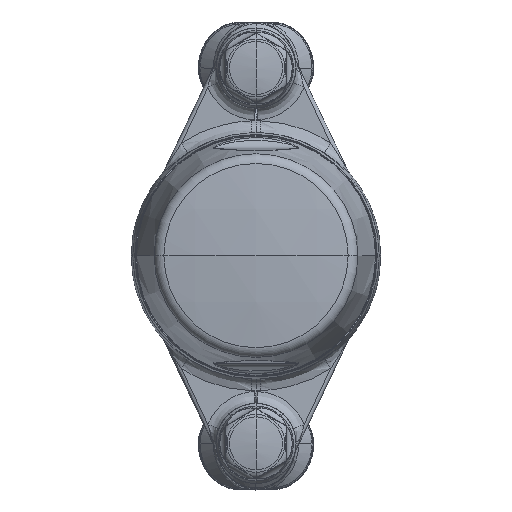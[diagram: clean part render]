
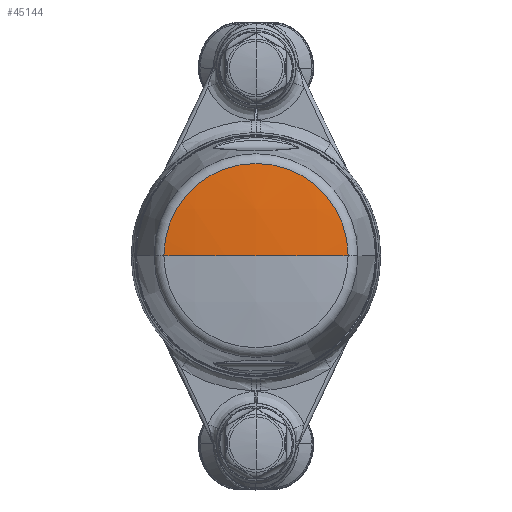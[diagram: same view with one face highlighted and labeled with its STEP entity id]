
A CAD part, top view. The second image highlights one B-rep face of the part: STEP entity #45144.
In plain terms, the highlighted spherical face has radius 200 mm.
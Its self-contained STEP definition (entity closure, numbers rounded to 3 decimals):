
#1450 = DIRECTION ( 'NONE',  ( 0., -1., 0. ) ) ;
#1950 = FACE_OUTER_BOUND ( 'NONE', #20202, .T. ) ;
#4816 = CARTESIAN_POINT ( 'NONE',  ( 24.283, 0., 40.272 ) ) ;
#5343 = VERTEX_POINT ( 'NONE', #11917 ) ;
#6493 = EDGE_CURVE ( 'NONE', #14119, #32111, #33352, .T. ) ;
#9954 = CARTESIAN_POINT ( 'NONE',  ( 0., 0., -158.249 ) ) ;
#11917 = CARTESIAN_POINT ( 'NONE',  ( -24.283, 0., 40.272 ) ) ;
#12270 = ORIENTED_EDGE ( 'NONE', *, *, #6493, .T. ) ;
#14119 = VERTEX_POINT ( 'NONE', #30737 ) ;
#17175 = DIRECTION ( 'NONE',  ( 1., 0., 0. ) ) ;
#18508 = AXIS2_PLACEMENT_3D ( 'NONE', #46195, #42319, #51069 ) ;
#20202 = EDGE_LOOP ( 'NONE', ( #30509, #12270, #29685 ) ) ;
#23450 = EDGE_CURVE ( 'NONE', #32111, #5343, #30008, .T. ) ;
#24237 = AXIS2_PLACEMENT_3D ( 'NONE', #9954, #1450, #17175 ) ;
#25716 = DIRECTION ( 'NONE',  ( 1., 0., 0. ) ) ;
#27362 = AXIS2_PLACEMENT_3D ( 'NONE', #45354, #44341, #25716 ) ;
#29685 = ORIENTED_EDGE ( 'NONE', *, *, #23450, .T. ) ;
#30008 = CIRCLE ( 'NONE', #18508, 24.283 ) ;
#30509 = ORIENTED_EDGE ( 'NONE', *, *, #30898, .F. ) ;
#30737 = CARTESIAN_POINT ( 'NONE',  ( 0., 0., 41.751 ) ) ;
#30898 = EDGE_CURVE ( 'NONE', #14119, #5343, #47082, .T. ) ;
#30971 = DIRECTION ( 'NONE',  ( 0., 1., 0. ) ) ;
#32111 = VERTEX_POINT ( 'NONE', #4816 ) ;
#33352 = CIRCLE ( 'NONE', #42441, 200. ) ;
#35354 = CARTESIAN_POINT ( 'NONE',  ( 0., 0., -158.249 ) ) ;
#36789 = SPHERICAL_SURFACE ( 'NONE', #24237, 200. ) ;
#42319 = DIRECTION ( 'NONE',  ( 0., 0., 1. ) ) ;
#42441 = AXIS2_PLACEMENT_3D ( 'NONE', #35354, #30971, #47494 ) ;
#44341 = DIRECTION ( 'NONE',  ( 0., -1., 0. ) ) ;
#45144 = ADVANCED_FACE ( 'NONE', ( #1950 ), #36789, .T. ) ;
#45354 = CARTESIAN_POINT ( 'NONE',  ( 0., 0., -158.249 ) ) ;
#46195 = CARTESIAN_POINT ( 'NONE',  ( 0., 0., 40.272 ) ) ;
#47082 = CIRCLE ( 'NONE', #27362, 200. ) ;
#47494 = DIRECTION ( 'NONE',  ( -1., 0., 0. ) ) ;
#51069 = DIRECTION ( 'NONE',  ( -1., 0., 0. ) ) ;
